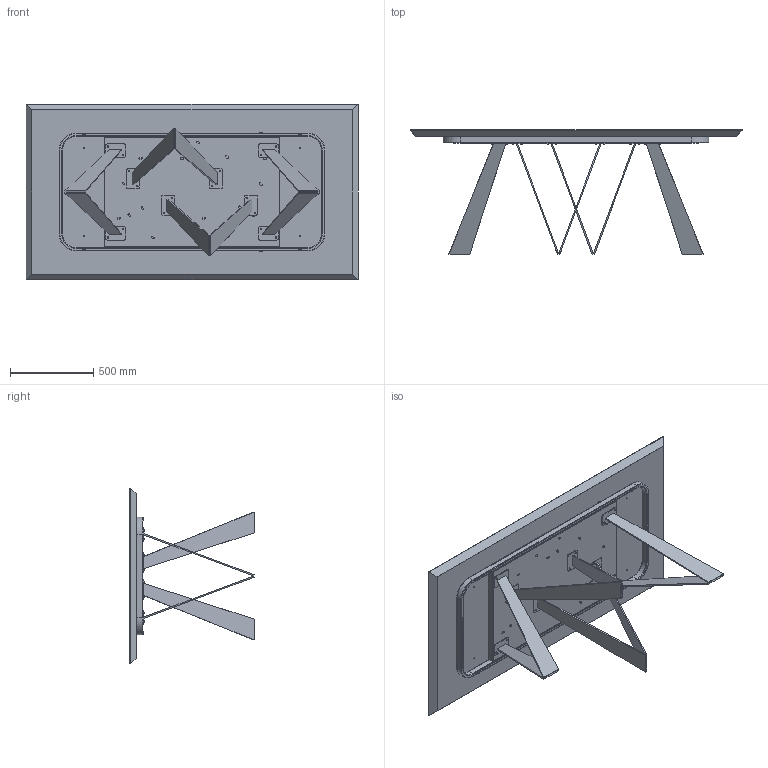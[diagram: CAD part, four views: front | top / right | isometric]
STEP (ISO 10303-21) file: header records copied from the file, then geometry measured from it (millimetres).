
FILE_DESCRIPTION (( 'STEP AP203' ), '1' );
FILE_NAME ('NO21W_Noa_200x106x75h_Wood Rectangular.STEP', '2024-08-07T14:29:37', ( '' ), ( '' ), 'SwSTEP 2.0', 'SolidWorks 2022', '' );
FILE_SCHEMA (( 'CONFIG_CONTROL_DESIGN' ));
Length unit declared in the file: millimetre
Products named in the file (15): TTAV06_02-01-VASSOIO TAVOLI PLAI ONDA NOA 240; TTAV06_01-01-STRUTTURA X TAVOLI PLAI ONDA NOA 240_Default<A macchina>; NO21W_Noa_200x106x75h_Wood Rectangular; rondella M8_8X16; M8xXXmm_M8x55mm; TTAV06-01-TELAIO X TAVOLI PLAI ONDA NOA 240cm_TTAV06; NOA000000-00-NOA BASE GREZZA; M8xXXmm_M8x16mm; Assieme NOA var 3_noa 200-240; 434070-00-PIEDINO TPV GOMMA NERO D. 30x8max18; W2XCMXX-00-Piani Rettangolari in legno_2000 x 1060; NOA000001PTRS-00-Piastra rettangoalre con fori; MAPPA; NOA000001GMB-00-Piastra Principale gamba NOA_Piatto SX; NOA000001GMB-00-Piastra Principale gamba NOA_Piatto DX
Assembly tree (55 placements, depth 4):
  NO21W_Noa_200x106x75h_Wood Rectangular
    W2XCMXX-00-Piani Rettangolari in legno_2000 x 1060
    Assieme NOA var 3_noa 200-240
      NOA000000-00-NOA BASE GREZZA  x4
        NOA000001GMB-00-Piastra Principale gamba NOA_Piatto SX
        NOA000001GMB-00-Piastra Principale gamba NOA_Piatto DX
        NOA000001PTRS-00-Piastra rettangoalre con fori
      TTAV06-01-TELAIO X TAVOLI PLAI ONDA NOA 240cm_TTAV06
        TTAV06_02-01-VASSOIO TAVOLI PLAI ONDA NOA 240
        TTAV06_01-01-STRUTTURA X TAVOLI PLAI ONDA NOA 240_Default<A macchina>
    M8xXXmm_M8x55mm  x4
    rondella M8_8X16  x20
    M8xXXmm_M8x16mm  x16
    434070-00-PIEDINO TPV GOMMA NERO D. 30x8max18  x2
  MAPPA
Bounding box: 2000 x 747.8 x 1060 mm (x, y, z)
Volume: 86004336.3 mm3; surface area: 8393186.8 mm2
Topology: 70 solids, 70 shells, 1684 faces, 3862 edges, 2283 vertices
Faces by surface type: plane 640, cylinder 434, cone 330, torus 280
Entity records: 23084 total; most frequent: DIRECTION 3768, CARTESIAN_POINT 3596, ORIENTED_EDGE 3312, EDGE_CURVE 1656, AXIS2_PLACEMENT_3D 1423, VERTEX_POINT 1031, LINE 922, VECTOR 922
